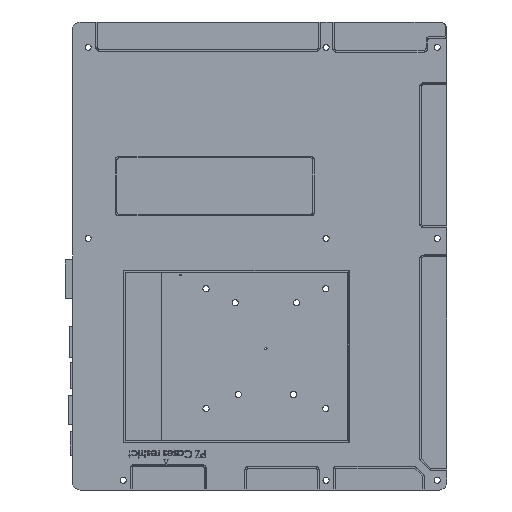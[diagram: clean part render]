
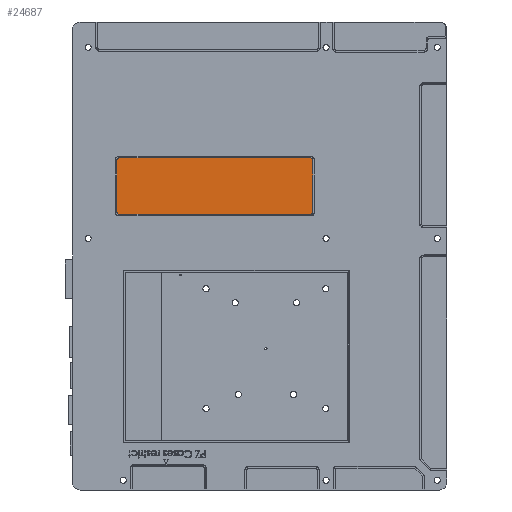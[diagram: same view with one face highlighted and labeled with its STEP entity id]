
A CAD part, front view. The second image highlights one B-rep face of the part: STEP entity #24687.
In plain terms, the highlighted planar face has unit normal (0, -1, 0).
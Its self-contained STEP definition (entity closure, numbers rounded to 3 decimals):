
#45 = CARTESIAN_POINT ( 'NONE',  ( 122.016, -0.775, 173.309 ) ) ;
#1414 = VERTEX_POINT ( 'NONE', #24902 ) ;
#1429 = CARTESIAN_POINT ( 'NONE',  ( -4.078, -0.775, 208.609 ) ) ;
#1517 = CIRCLE ( 'NONE', #18298, 1.3 ) ;
#1637 = EDGE_CURVE ( 'NONE', #17456, #7011, #13345, .T. ) ;
#1648 = LINE ( 'NONE', #6275, #28073 ) ;
#1769 = CARTESIAN_POINT ( 'NONE',  ( 123.316, -0.775, 208.609 ) ) ;
#1894 = VERTEX_POINT ( 'NONE', #18086 ) ;
#2398 = VERTEX_POINT ( 'NONE', #1769 ) ;
#2699 = EDGE_CURVE ( 'NONE', #1894, #22537, #1517, .T. ) ;
#3326 = CARTESIAN_POINT ( 'NONE',  ( 123.316, -0.775, 208.609 ) ) ;
#3931 = ORIENTED_EDGE ( 'NONE', *, *, #17663, .T. ) ;
#4021 = DIRECTION ( 'NONE',  ( -1., 0., 0. ) ) ;
#4543 = EDGE_CURVE ( 'NONE', #2398, #17456, #20798, .T. ) ;
#4642 = CARTESIAN_POINT ( 'NONE',  ( -2.778, -0.775, 208.609 ) ) ;
#4800 = CARTESIAN_POINT ( 'NONE',  ( 122.016, -0.775, 208.609 ) ) ;
#4913 = AXIS2_PLACEMENT_3D ( 'NONE', #6856, #12009, #27552 ) ;
#5639 = DIRECTION ( 'NONE',  ( 0., 0., -1. ) ) ;
#5837 = DIRECTION ( 'NONE',  ( 1., 0., 0. ) ) ;
#6275 = CARTESIAN_POINT ( 'NONE',  ( -4.078, -0.775, 174.609 ) ) ;
#6331 = ORIENTED_EDGE ( 'NONE', *, *, #4543, .T. ) ;
#6571 = DIRECTION ( 'NONE',  ( 0., 0., -1. ) ) ;
#6856 = CARTESIAN_POINT ( 'NONE',  ( -2.778, -0.775, 174.609 ) ) ;
#6968 = VERTEX_POINT ( 'NONE', #10148 ) ;
#7011 = VERTEX_POINT ( 'NONE', #22877 ) ;
#7170 = PLANE ( 'NONE',  #19658 ) ;
#7286 = EDGE_CURVE ( 'NONE', #1414, #1894, #20605, .T. ) ;
#8281 = CIRCLE ( 'NONE', #4913, 1.3 ) ;
#8548 = DIRECTION ( 'NONE',  ( 0., 0., -1. ) ) ;
#9452 = DIRECTION ( 'NONE',  ( 0., 0., -1. ) ) ;
#9665 = LINE ( 'NONE', #3326, #23896 ) ;
#10148 = CARTESIAN_POINT ( 'NONE',  ( -4.078, -0.775, 174.609 ) ) ;
#10465 = DIRECTION ( 'NONE',  ( 0., 0., -1. ) ) ;
#12009 = DIRECTION ( 'NONE',  ( 0., -1., 0. ) ) ;
#13345 = LINE ( 'NONE', #29497, #26296 ) ;
#13450 = VECTOR ( 'NONE', #5837, 1000. ) ;
#13988 = DIRECTION ( 'NONE',  ( 0., -1., 0. ) ) ;
#14634 = EDGE_CURVE ( 'NONE', #17135, #6968, #1648, .T. ) ;
#16242 = CIRCLE ( 'NONE', #17194, 1.3 ) ;
#16315 = EDGE_CURVE ( 'NONE', #22537, #2398, #9665, .T. ) ;
#16484 = CARTESIAN_POINT ( 'NONE',  ( 122.016, -0.775, 208.609 ) ) ;
#16495 = ORIENTED_EDGE ( 'NONE', *, *, #7286, .T. ) ;
#17135 = VERTEX_POINT ( 'NONE', #1429 ) ;
#17194 = AXIS2_PLACEMENT_3D ( 'NONE', #4642, #29235, #6571 ) ;
#17456 = VERTEX_POINT ( 'NONE', #24156 ) ;
#17663 = EDGE_CURVE ( 'NONE', #7011, #17135, #16242, .T. ) ;
#18086 = CARTESIAN_POINT ( 'NONE',  ( 122.016, -0.775, 173.309 ) ) ;
#18223 = ORIENTED_EDGE ( 'NONE', *, *, #27033, .T. ) ;
#18298 = AXIS2_PLACEMENT_3D ( 'NONE', #19327, #26213, #5639 ) ;
#19267 = DIRECTION ( 'NONE',  ( 0., 0., 1. ) ) ;
#19327 = CARTESIAN_POINT ( 'NONE',  ( 122.016, -0.775, 174.609 ) ) ;
#19658 = AXIS2_PLACEMENT_3D ( 'NONE', #16484, #25614, #10465 ) ;
#20159 = EDGE_LOOP ( 'NONE', ( #6331, #20376, #3931, #28232, #18223, #16495, #26001, #28114 ) ) ;
#20376 = ORIENTED_EDGE ( 'NONE', *, *, #1637, .T. ) ;
#20605 = LINE ( 'NONE', #45, #13450 ) ;
#20798 = CIRCLE ( 'NONE', #26540, 1.3 ) ;
#22537 = VERTEX_POINT ( 'NONE', #25532 ) ;
#22877 = CARTESIAN_POINT ( 'NONE',  ( -2.778, -0.775, 209.909 ) ) ;
#23377 = FACE_OUTER_BOUND ( 'NONE', #20159, .T. ) ;
#23896 = VECTOR ( 'NONE', #19267, 1000. ) ;
#24156 = CARTESIAN_POINT ( 'NONE',  ( 122.016, -0.775, 209.909 ) ) ;
#24687 = ADVANCED_FACE ( 'NONE', ( #23377 ), #7170, .T. ) ;
#24902 = CARTESIAN_POINT ( 'NONE',  ( -2.778, -0.775, 173.309 ) ) ;
#25532 = CARTESIAN_POINT ( 'NONE',  ( 123.316, -0.775, 174.609 ) ) ;
#25614 = DIRECTION ( 'NONE',  ( 0., -1., 0. ) ) ;
#26001 = ORIENTED_EDGE ( 'NONE', *, *, #2699, .T. ) ;
#26213 = DIRECTION ( 'NONE',  ( 0., -1., 0. ) ) ;
#26296 = VECTOR ( 'NONE', #4021, 1000. ) ;
#26540 = AXIS2_PLACEMENT_3D ( 'NONE', #4800, #13988, #9452 ) ;
#27033 = EDGE_CURVE ( 'NONE', #6968, #1414, #8281, .T. ) ;
#27552 = DIRECTION ( 'NONE',  ( 0., 0., -1. ) ) ;
#28073 = VECTOR ( 'NONE', #8548, 1000. ) ;
#28114 = ORIENTED_EDGE ( 'NONE', *, *, #16315, .T. ) ;
#28232 = ORIENTED_EDGE ( 'NONE', *, *, #14634, .T. ) ;
#29235 = DIRECTION ( 'NONE',  ( 0., -1., 0. ) ) ;
#29497 = CARTESIAN_POINT ( 'NONE',  ( -2.778, -0.775, 209.909 ) ) ;
